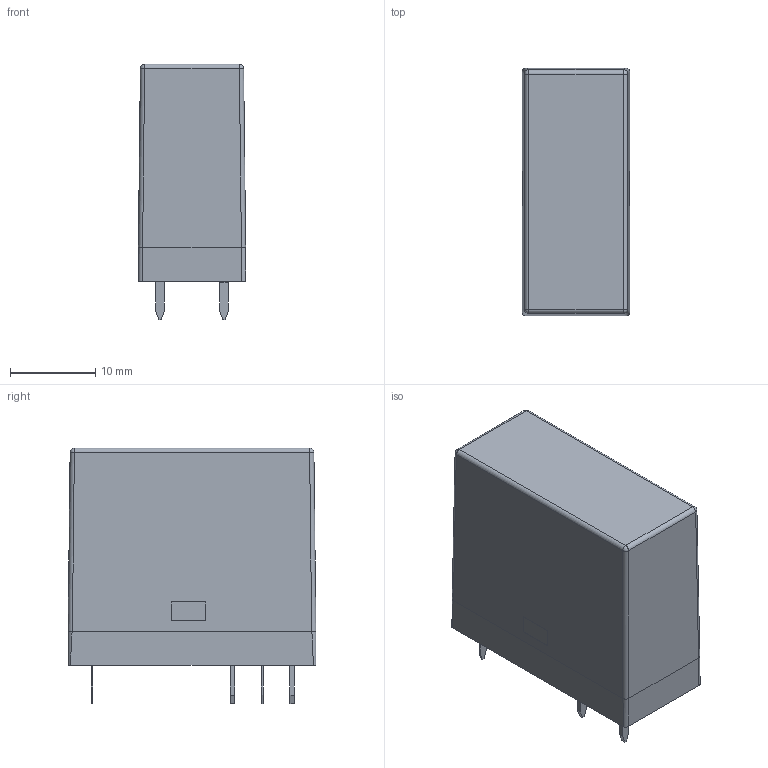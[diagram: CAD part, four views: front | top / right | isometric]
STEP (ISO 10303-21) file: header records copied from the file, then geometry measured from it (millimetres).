
FILE_DESCRIPTION (( 'STEP AP214' ), '1' );
FILE_NAME ('C18-xxxPT.STEP', '2024-03-26T09:52:53', ( '' ), ( '' ), 'SwSTEP 2.0', 'SolidWorks 2022', '' );
FILE_SCHEMA (( 'AUTOMOTIVE_DESIGN' ));
Length unit declared in the file: millimetre
Products named in the file (1): C18-xxxPT
Bounding box: 12.6 x 29.1 x 30 mm (x, y, z)
Volume: 9129.2 mm3; surface area: 2837.8 mm2
Topology: 1 solids, 1 shells, 88 faces, 210 edges, 130 vertices
Faces by surface type: plane 70, cylinder 14, sphere 4
Entity records: 3255 total; most frequent: CARTESIAN_POINT 479, ORIENTED_EDGE 412, DIRECTION 382, EDGE_CURVE 206, LINE 180, VECTOR 180, VERTEX_POINT 130, AXIS2_PLACEMENT_3D 101
